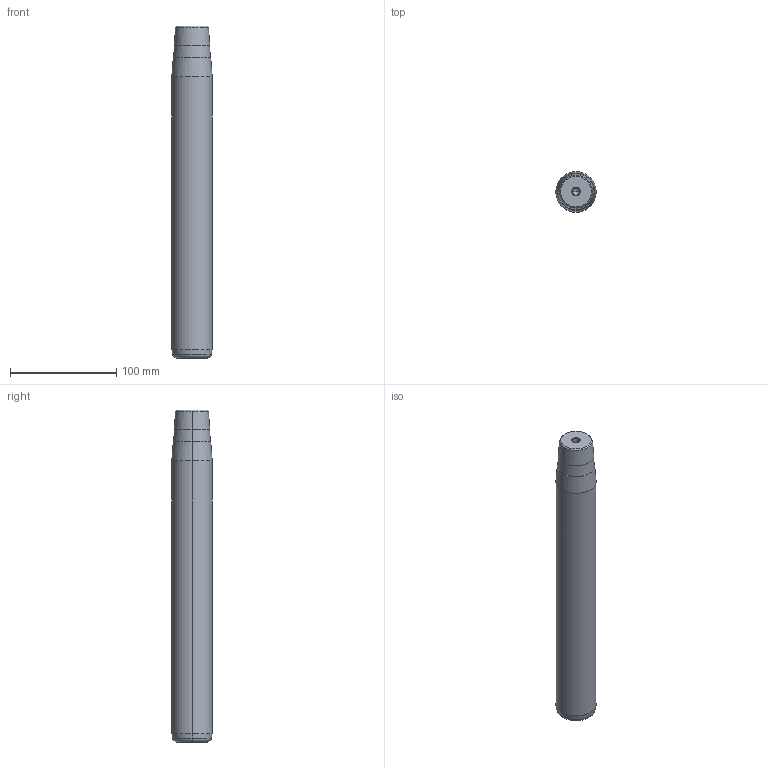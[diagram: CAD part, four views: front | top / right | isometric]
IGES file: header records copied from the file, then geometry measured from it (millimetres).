
Start section: START RECORD GO HERE.
Global section: file name: 722-38x280x313.igs; native system: DASSAULT SYSTEMES CATIA V5 R20 - www.3ds.com; preprocessor: CATIA Version 5 Release 20 ; author: Utente; organization: NB04-ASUS; date: 20210108.170051; units: millimetre
Bounding box: 38 x 38 x 313 mm (x, y, z)
Surface area: 39493.6 mm2 (no closed solid volume)
Topology: 0 solids, 0 shells, 32 faces, 128 edges, 124 vertices
Faces by surface type: revolution 30, plane 2
